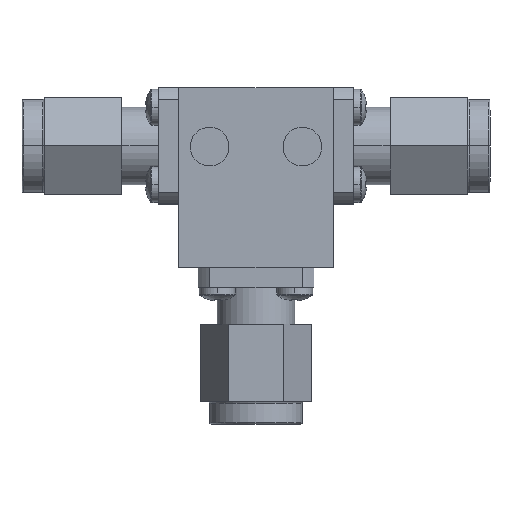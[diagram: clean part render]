
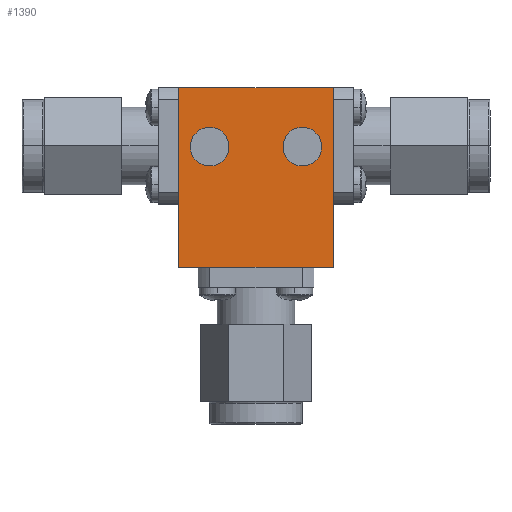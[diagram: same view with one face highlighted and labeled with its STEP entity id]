
A CAD part, top view. The second image highlights one B-rep face of the part: STEP entity #1390.
In plain terms, the highlighted planar face has unit normal (0, 0, 1) as drawn and (0, 0, -1) by its records, which use the part's own axes.
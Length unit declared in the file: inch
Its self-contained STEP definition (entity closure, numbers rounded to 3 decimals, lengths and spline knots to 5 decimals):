
#10 = DIRECTION ( 'NONE',  ( 0., 0., 1. ) ) ;
#53 = EDGE_LOOP ( 'NONE', ( #1564, #3092 ) ) ;
#95 = ORIENTED_EDGE ( 'NONE', *, *, #938, .F. ) ;
#102 = CARTESIAN_POINT ( 'NONE',  ( -0.0875, 0.1, -0.19 ) ) ;
#185 = DIRECTION ( 'NONE',  ( 0., 1., 0. ) ) ;
#229 = EDGE_CURVE ( 'NONE', #1269, #302, #1057, .T. ) ;
#233 = DIRECTION ( 'NONE',  ( 1., 0., 0. ) ) ;
#264 = VERTEX_POINT ( 'NONE', #2930 ) ;
#302 = VERTEX_POINT ( 'NONE', #723 ) ;
#386 = FACE_BOUND ( 'NONE', #53, .T. ) ;
#418 = CARTESIAN_POINT ( 'NONE',  ( -0.25, 0.29, -0.19 ) ) ;
#432 = DIRECTION ( 'NONE',  ( 0., -1., 0. ) ) ;
#469 = LINE ( 'NONE', #2397, #1579 ) ;
#470 = FACE_BOUND ( 'NONE', #1289, .T. ) ;
#527 = VERTEX_POINT ( 'NONE', #829 ) ;
#541 = CIRCLE ( 'NONE', #3078, 0.0625 ) ;
#582 = CARTESIAN_POINT ( 'NONE',  ( 0.0875, 0.1, -0.19 ) ) ;
#658 = VECTOR ( 'NONE', #432, 39.37008 ) ;
#680 = DIRECTION ( 'NONE',  ( 0., 0., 1. ) ) ;
#723 = CARTESIAN_POINT ( 'NONE',  ( 0.2125, 0.1, -0.19 ) ) ;
#764 = EDGE_CURVE ( 'NONE', #1211, #2807, #1586, .T. ) ;
#829 = CARTESIAN_POINT ( 'NONE',  ( 0.25, 0.29, -0.19 ) ) ;
#842 = EDGE_CURVE ( 'NONE', #302, #1269, #2019, .T. ) ;
#847 = AXIS2_PLACEMENT_3D ( 'NONE', #1480, #10, #3149 ) ;
#893 = VECTOR ( 'NONE', #2924, 39.37008 ) ;
#932 = LINE ( 'NONE', #2449, #893 ) ;
#938 = EDGE_CURVE ( 'NONE', #2807, #264, #932, .T. ) ;
#966 = AXIS2_PLACEMENT_3D ( 'NONE', #3128, #2395, #3117 ) ;
#974 = CARTESIAN_POINT ( 'NONE',  ( -0.25, -0.29, -0.19 ) ) ;
#1057 = CIRCLE ( 'NONE', #847, 0.0625 ) ;
#1065 = CARTESIAN_POINT ( 'NONE',  ( -0.25, 0.29, -0.19 ) ) ;
#1101 = ORIENTED_EDGE ( 'NONE', *, *, #764, .F. ) ;
#1155 = ORIENTED_EDGE ( 'NONE', *, *, #2547, .T. ) ;
#1211 = VERTEX_POINT ( 'NONE', #1065 ) ;
#1263 = EDGE_LOOP ( 'NONE', ( #1716, #95, #1101, #1980 ) ) ;
#1269 = VERTEX_POINT ( 'NONE', #582 ) ;
#1276 = AXIS2_PLACEMENT_3D ( 'NONE', #2909, #680, #1678 ) ;
#1289 = EDGE_LOOP ( 'NONE', ( #1594, #1155 ) ) ;
#1312 = CARTESIAN_POINT ( 'NONE',  ( -0.15, 0.1, -0.19 ) ) ;
#1390 = ADVANCED_FACE ( 'NONE', ( #386, #470, #2758 ), #1689, .F. ) ;
#1442 = VECTOR ( 'NONE', #2035, 39.37008 ) ;
#1480 = CARTESIAN_POINT ( 'NONE',  ( 0.15, 0.1, -0.19 ) ) ;
#1494 = EDGE_CURVE ( 'NONE', #2677, #2697, #541, .T. ) ;
#1564 = ORIENTED_EDGE ( 'NONE', *, *, #842, .T. ) ;
#1579 = VECTOR ( 'NONE', #185, 39.37008 ) ;
#1586 = LINE ( 'NONE', #418, #658 ) ;
#1594 = ORIENTED_EDGE ( 'NONE', *, *, #1494, .T. ) ;
#1678 = DIRECTION ( 'NONE',  ( 1., 0., 0. ) ) ;
#1689 = PLANE ( 'NONE',  #1276 ) ;
#1716 = ORIENTED_EDGE ( 'NONE', *, *, #1828, .F. ) ;
#1726 = CIRCLE ( 'NONE', #2704, 0.0625 ) ;
#1790 = CARTESIAN_POINT ( 'NONE',  ( -0.15, 0.1, -0.19 ) ) ;
#1828 = EDGE_CURVE ( 'NONE', #264, #527, #469, .T. ) ;
#1980 = ORIENTED_EDGE ( 'NONE', *, *, #3097, .F. ) ;
#2019 = CIRCLE ( 'NONE', #966, 0.0625 ) ;
#2035 = DIRECTION ( 'NONE',  ( -1., 0., 0. ) ) ;
#2085 = LINE ( 'NONE', #2295, #1442 ) ;
#2254 = DIRECTION ( 'NONE',  ( 0., 0., 1. ) ) ;
#2295 = CARTESIAN_POINT ( 'NONE',  ( -0.25, 0.29, -0.19 ) ) ;
#2395 = DIRECTION ( 'NONE',  ( 0., 0., 1. ) ) ;
#2397 = CARTESIAN_POINT ( 'NONE',  ( 0.25, 0.29, -0.19 ) ) ;
#2449 = CARTESIAN_POINT ( 'NONE',  ( -0.25, -0.29, -0.19 ) ) ;
#2547 = EDGE_CURVE ( 'NONE', #2697, #2677, #1726, .T. ) ;
#2677 = VERTEX_POINT ( 'NONE', #102 ) ;
#2697 = VERTEX_POINT ( 'NONE', #2835 ) ;
#2704 = AXIS2_PLACEMENT_3D ( 'NONE', #1790, #2254, #2766 ) ;
#2758 = FACE_OUTER_BOUND ( 'NONE', #1263, .T. ) ;
#2766 = DIRECTION ( 'NONE',  ( 1., 0., 0. ) ) ;
#2807 = VERTEX_POINT ( 'NONE', #974 ) ;
#2835 = CARTESIAN_POINT ( 'NONE',  ( -0.2125, 0.1, -0.19 ) ) ;
#2909 = CARTESIAN_POINT ( 'NONE',  ( 0., 0., -0.19 ) ) ;
#2924 = DIRECTION ( 'NONE',  ( 1., 0., 0. ) ) ;
#2930 = CARTESIAN_POINT ( 'NONE',  ( 0.25, -0.29, -0.19 ) ) ;
#2934 = DIRECTION ( 'NONE',  ( 0., 0., 1. ) ) ;
#3078 = AXIS2_PLACEMENT_3D ( 'NONE', #1312, #2934, #233 ) ;
#3092 = ORIENTED_EDGE ( 'NONE', *, *, #229, .T. ) ;
#3097 = EDGE_CURVE ( 'NONE', #527, #1211, #2085, .T. ) ;
#3117 = DIRECTION ( 'NONE',  ( 1., 0., 0. ) ) ;
#3128 = CARTESIAN_POINT ( 'NONE',  ( 0.15, 0.1, -0.19 ) ) ;
#3149 = DIRECTION ( 'NONE',  ( 1., 0., 0. ) ) ;
